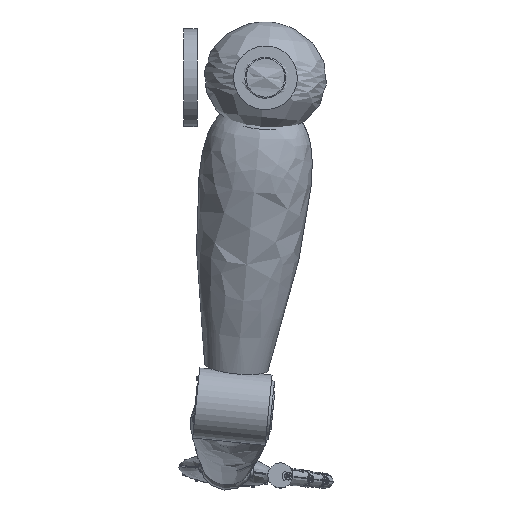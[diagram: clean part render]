
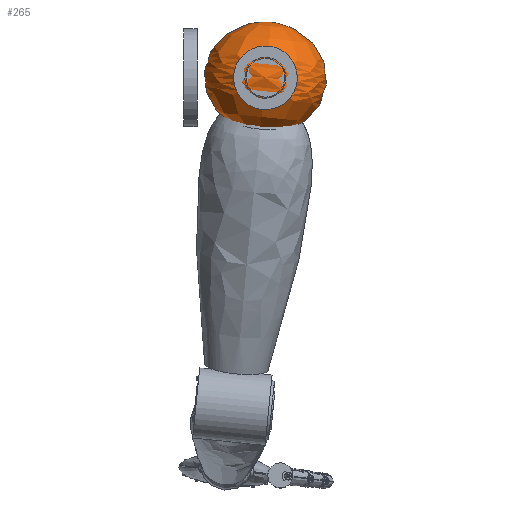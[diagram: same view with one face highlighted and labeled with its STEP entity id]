
A CAD part, left-side view. The second image highlights one B-rep face of the part: STEP entity #265.
In plain terms, the highlighted free-form (B-spline) face has degree [2, 2] with [7, 5] control points.
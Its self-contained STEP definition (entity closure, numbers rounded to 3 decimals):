
#265 = ADVANCED_FACE('',(#266),#270,.T.);
#266 = FACE_BOUND('',#267,.T.);
#267 = VERTEX_LOOP('',#268);
#268 = VERTEX_POINT('',#269);
#269 = CARTESIAN_POINT('',(0.,-4.892,
    1128.755));
#270 = ( BOUNDED_SURFACE() B_SPLINE_SURFACE(2,2,(
    (#271,#272,#273,#274,#275)
    ,(#276,#277,#278,#279,#280)
    ,(#281,#282,#283,#284,#285)
    ,(#286,#287,#288,#289,#290)
    ,(#291,#292,#293,#294,#295)
    ,(#296,#297,#298,#299,#300)
    ,(#301,#302,#303,#304,#305
)),.UNSPECIFIED.,.T.,.F.,.F.) B_SPLINE_SURFACE_WITH_KNOTS((1,2,2,2,2,1),
  (3,2,3),(-2.094,0.,2.094,4.189,
    6.283,8.378),(-1.571,0.,1.571),
.UNSPECIFIED.) GEOMETRIC_REPRESENTATION_ITEM() RATIONAL_B_SPLINE_SURFACE
((
    (1.,0.707,1.,0.707,1.)
    ,(0.5,0.354,0.5,0.354,0.5)
    ,(1.,0.707,1.,0.707,1.)
    ,(0.5,0.354,0.5,0.354,0.5)
    ,(1.,0.707,1.,0.707,1.)
    ,(0.5,0.354,0.5,0.354,0.5)
,(1.,0.707,1.,0.707,1.
))) REPRESENTATION_ITEM('') SURFACE() );
#271 = CARTESIAN_POINT('',(0.,-4.892,
    1128.755));
#272 = CARTESIAN_POINT('',(49.,-4.892,1128.755));
#273 = CARTESIAN_POINT('',(49.,0.,1080.));
#274 = CARTESIAN_POINT('',(49.,4.892,1031.245));
#275 = CARTESIAN_POINT('',(0.,4.892,
    1031.245));
#276 = CARTESIAN_POINT('',(0.,-4.892,
    1128.755));
#277 = CARTESIAN_POINT('',(49.,-97.955,1119.418));
#278 = CARTESIAN_POINT('',(49.,-93.063,1070.663));
#279 = CARTESIAN_POINT('',(49.,-88.172,1021.907));
#280 = CARTESIAN_POINT('',(0.,4.892,
    1031.245));
#281 = CARTESIAN_POINT('',(0.,-4.892,
    1128.755));
#282 = CARTESIAN_POINT('',(-24.5,-51.424,1124.086));
#283 = CARTESIAN_POINT('',(-24.5,-46.532,1075.331));
#284 = CARTESIAN_POINT('',(-24.5,-41.64,1026.576));
#285 = CARTESIAN_POINT('',(0.,4.892,
    1031.245));
#286 = CARTESIAN_POINT('',(0.,-4.892,
    1128.755));
#287 = CARTESIAN_POINT('',(-98.,-4.892,1128.755));
#288 = CARTESIAN_POINT('',(-98.,0.,1080.));
#289 = CARTESIAN_POINT('',(-98.,4.892,1031.245));
#290 = CARTESIAN_POINT('',(0.,4.892,
    1031.245));
#291 = CARTESIAN_POINT('',(0.,-4.892,
    1128.755));
#292 = CARTESIAN_POINT('',(-24.5,41.64,1133.424));
#293 = CARTESIAN_POINT('',(-24.5,46.532,1084.669));
#294 = CARTESIAN_POINT('',(-24.5,51.424,1035.914));
#295 = CARTESIAN_POINT('',(0.,4.892,
    1031.245));
#296 = CARTESIAN_POINT('',(0.,-4.892,
    1128.755));
#297 = CARTESIAN_POINT('',(49.,88.172,1138.093));
#298 = CARTESIAN_POINT('',(49.,93.063,1089.337));
#299 = CARTESIAN_POINT('',(49.,97.955,1040.582));
#300 = CARTESIAN_POINT('',(0.,4.892,
    1031.245));
#301 = CARTESIAN_POINT('',(0.,-4.892,
    1128.755));
#302 = CARTESIAN_POINT('',(49.,-4.892,1128.755));
#303 = CARTESIAN_POINT('',(49.,0.,1080.));
#304 = CARTESIAN_POINT('',(49.,4.892,1031.245));
#305 = CARTESIAN_POINT('',(0.,4.892,
    1031.245));
